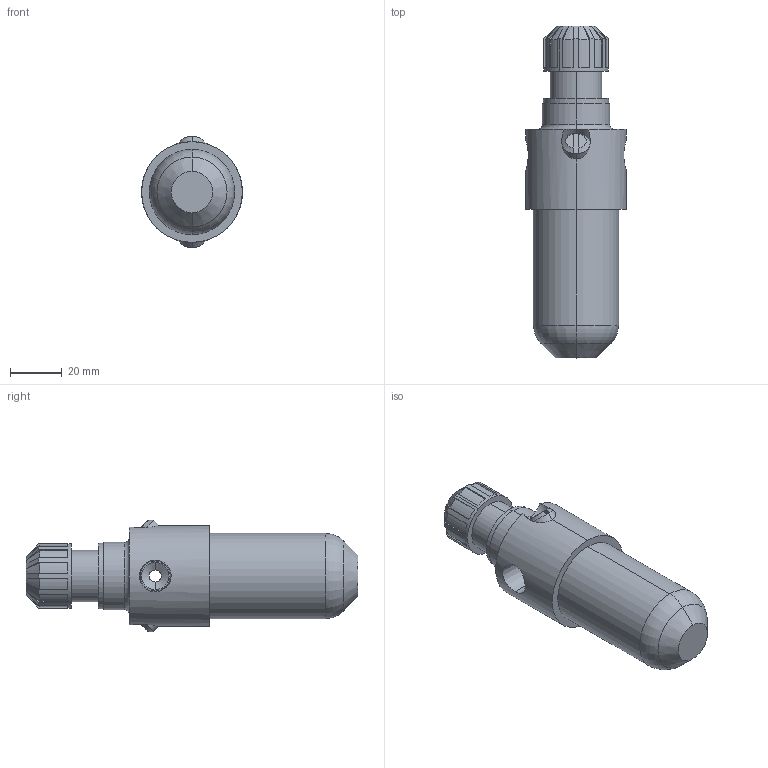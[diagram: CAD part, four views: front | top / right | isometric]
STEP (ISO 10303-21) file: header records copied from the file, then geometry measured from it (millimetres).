
FILE_DESCRIPTION (( 'STEP AP203' ), '1' );
FILE_NAME ('L508-02.STEP', '2016-01-14T18:24:34', ( '' ), ( '' ), 'SwSTEP 2.0', 'SolidWorks 2014', '' );
FILE_SCHEMA (( 'CONFIG_CONTROL_DESIGN' ));
Length unit declared in the file: millimetre
Products named in the file (6): L508-02; L508-5; L508-2; L508-1; L508-3; L508-4
Assembly tree (6 placements, depth 2):
  L508-02
    L508-1
    L508-2
    L508-3
    L508-4  x2
    L508-5
Bounding box: 39 x 128.5 x 43.13 mm (x, y, z)
Volume: 95958.6 mm3; surface area: 20423 mm2
Topology: 6 solids, 6 shells, 169 faces, 428 edges, 278 vertices
Faces by surface type: plane 101, cylinder 38, cone 26, torus 4
Entity records: 5761 total; most frequent: CARTESIAN_POINT 1251, ORIENTED_EDGE 816, DIRECTION 802, EDGE_CURVE 408, AXIS2_PLACEMENT_3D 280, VERTEX_POINT 266, VECTOR 242, LINE 242
